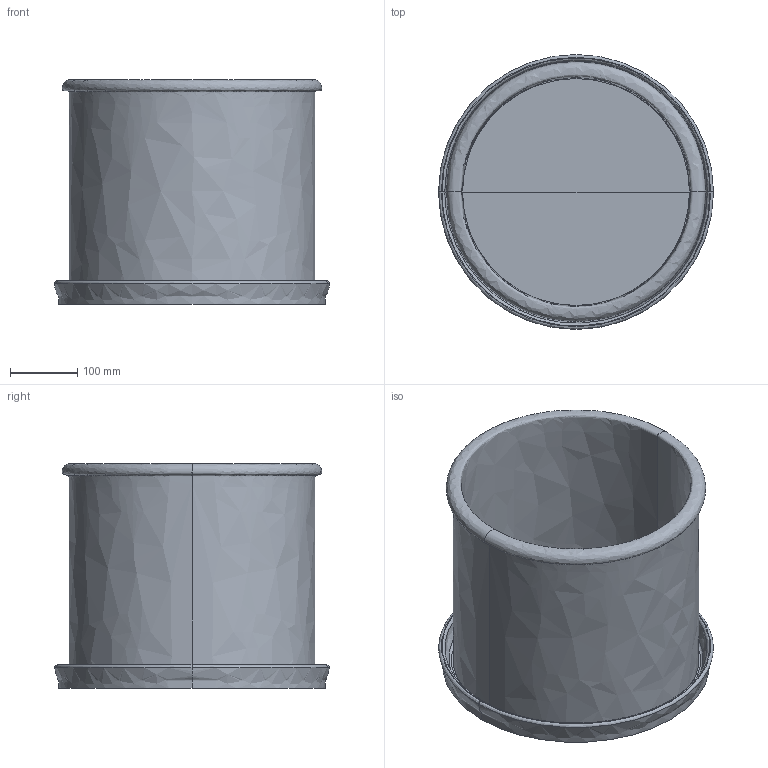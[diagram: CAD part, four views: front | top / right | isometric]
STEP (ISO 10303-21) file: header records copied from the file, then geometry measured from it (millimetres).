
FILE_DESCRIPTION(/* description */ (''),/* implementation_level */ '2;1');
FILE_NAME(/* name */ '40',/* time_stamp */ '2026-07-15T10:35:56+02:00',/* author */ (''),/* organization */ (''),/* preprocessor_version */ 'ST-DEVELOPER v19.2',/* originating_system */ 'Rhino 8.33',/* authorisation */ '');
FILE_SCHEMA (('CONFIG_CONTROL_DESIGN'));
Length unit declared in the file: millimetre
Products named in the file (1): Document
Bounding box: 407.83 x 407.83 x 334 mm (x, y, z)
Volume: 8104890.5 mm3; surface area: 1245714 mm2
Topology: 2 solids, 2 shells, 26 faces, 48 edges, 26 vertices
Faces by surface type: bspline 16, plane 10
Entity records: 2262 total; most frequent: CARTESIAN_POINT 1750, ORIENTED_EDGE 96, DIRECTION 70, EDGE_CURVE 48, AXIS2_PLACEMENT_3D 40, TRIMMED_CURVE 28, CIRCLE 28, ADVANCED_FACE 26
